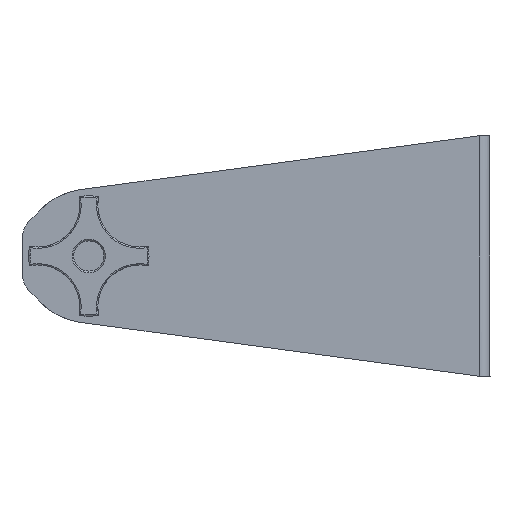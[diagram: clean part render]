
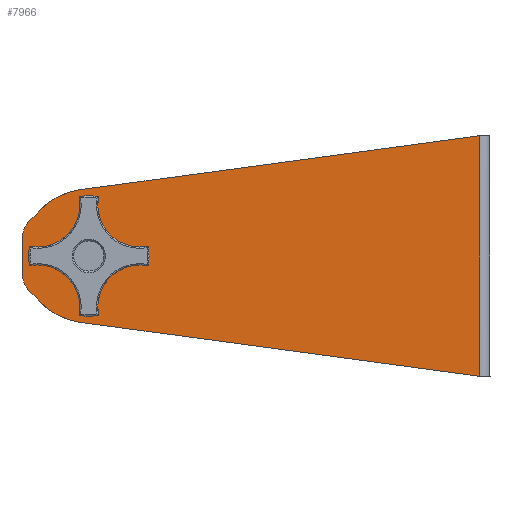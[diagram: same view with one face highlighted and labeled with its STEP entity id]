
A CAD part, left-side view. The second image highlights one B-rep face of the part: STEP entity #7966.
In plain terms, the highlighted planar face has unit normal (-1, 0, 0).
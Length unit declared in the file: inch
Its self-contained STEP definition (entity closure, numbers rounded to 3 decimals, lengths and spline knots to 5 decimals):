
#105 = CARTESIAN_POINT ( 'NONE',  ( -12., 7.5, 0. ) ) ;
#266 = ORIENTED_EDGE ( 'NONE', *, *, #3225, .T. ) ;
#328 = EDGE_CURVE ( 'NONE', #4331, #2319, #2053, .T. ) ;
#677 = CARTESIAN_POINT ( 'NONE',  ( -12., 7.5, 0. ) ) ;
#795 = DIRECTION ( 'NONE',  ( 0., -1., 0. ) ) ;
#947 = DIRECTION ( 'NONE',  ( 0., -1., 0. ) ) ;
#1313 = FACE_OUTER_BOUND ( 'NONE', #1505, .T. ) ;
#1505 = EDGE_LOOP ( 'NONE', ( #10176, #266, #9492, #7971, #7106, #9514, #6292, #7753, #9885, #3402 ) ) ;
#1537 = DIRECTION ( 'NONE',  ( 0., -1., 0. ) ) ;
#1566 = CARTESIAN_POINT ( 'NONE',  ( -12., 7.66748, 1.23873 ) ) ;
#1710 = CARTESIAN_POINT ( 'NONE',  ( -12., 7.5, 0. ) ) ;
#1825 = AXIS2_PLACEMENT_3D ( 'NONE', #1710, #7657, #2567 ) ;
#1888 = AXIS2_PLACEMENT_3D ( 'NONE', #10995, #5913, #795 ) ;
#1944 = AXIS2_PLACEMENT_3D ( 'NONE', #3943, #4012, #3971 ) ;
#2053 = CIRCLE ( 'NONE', #1944, 0.5 ) ;
#2263 = CIRCLE ( 'NONE', #9481, 0.5 ) ;
#2310 = VERTEX_POINT ( 'NONE', #1566 ) ;
#2319 = VERTEX_POINT ( 'NONE', #10609 ) ;
#2511 = EDGE_CURVE ( 'NONE', #6469, #2310, #5271, .T. ) ;
#2535 = LINE ( 'NONE', #9666, #5976 ) ;
#2567 = DIRECTION ( 'NONE',  ( 0., -1., 0. ) ) ;
#2835 = VERTEX_POINT ( 'NONE', #8003 ) ;
#3156 = CIRCLE ( 'NONE', #4452, 0.1955 ) ;
#3181 = CIRCLE ( 'NONE', #8165, 1.25 ) ;
#3225 = EDGE_CURVE ( 'NONE', #3982, #9235, #7261, .T. ) ;
#3402 = ORIENTED_EDGE ( 'NONE', *, *, #5415, .F. ) ;
#3494 = EDGE_CURVE ( 'NONE', #8065, #2835, #8567, .T. ) ;
#3510 = EDGE_CURVE ( 'NONE', #2310, #9235, #7727, .T. ) ;
#3661 = VERTEX_POINT ( 'NONE', #5132 ) ;
#3730 = PLANE ( 'NONE',  #7076 ) ;
#3907 = DIRECTION ( 'NONE',  ( 0., 0., 1. ) ) ;
#3943 = CARTESIAN_POINT ( 'NONE',  ( -12., 8.25, -0.31 ) ) ;
#3971 = DIRECTION ( 'NONE',  ( 0., -1., 0. ) ) ;
#3980 = CARTESIAN_POINT ( 'NONE',  ( -12., 8.38521, 0.88255 ) ) ;
#3982 = VERTEX_POINT ( 'NONE', #10714 ) ;
#4012 = DIRECTION ( 'NONE',  ( 1., 0., 0. ) ) ;
#4331 = VERTEX_POINT ( 'NONE', #7876 ) ;
#4452 = AXIS2_PLACEMENT_3D ( 'NONE', #105, #6066, #947 ) ;
#4514 = CARTESIAN_POINT ( 'NONE',  ( -12., 8.25, 0.31 ) ) ;
#4576 = DIRECTION ( 'NONE',  ( -1., 0., 0. ) ) ;
#4730 = CARTESIAN_POINT ( 'NONE',  ( -12., 0.188, 2.25 ) ) ;
#4782 = EDGE_CURVE ( 'NONE', #2319, #3661, #2535, .T. ) ;
#5130 = VERTEX_POINT ( 'NONE', #6158 ) ;
#5132 = CARTESIAN_POINT ( 'NONE',  ( -12., 8.75, 0.31 ) ) ;
#5271 = CIRCLE ( 'NONE', #1888, 1.25 ) ;
#5361 = DIRECTION ( 'NONE',  ( 0., -1., 0. ) ) ;
#5406 = ORIENTED_EDGE ( 'NONE', *, *, #3494, .T. ) ;
#5415 = EDGE_CURVE ( 'NONE', #5130, #9587, #3181, .T. ) ;
#5459 = VECTOR ( 'NONE', #5584, 39.37008 ) ;
#5517 = VERTEX_POINT ( 'NONE', #9223 ) ;
#5584 = DIRECTION ( 'NONE',  ( 0., -0.991, 0.134 ) ) ;
#5716 = LINE ( 'NONE', #9077, #7961 ) ;
#5862 = FACE_BOUND ( 'NONE', #8602, .T. ) ;
#5913 = DIRECTION ( 'NONE',  ( 1., 0., 0. ) ) ;
#5931 = LINE ( 'NONE', #9565, #9611 ) ;
#5976 = VECTOR ( 'NONE', #8827, 39.37008 ) ;
#6066 = DIRECTION ( 'NONE',  ( 1., 0., 0. ) ) ;
#6158 = CARTESIAN_POINT ( 'NONE',  ( -12., 7.66748, -1.23873 ) ) ;
#6292 = ORIENTED_EDGE ( 'NONE', *, *, #4782, .F. ) ;
#6437 = CARTESIAN_POINT ( 'NONE',  ( -12., 0.196, 0. ) ) ;
#6453 = CARTESIAN_POINT ( 'NONE',  ( -12., 8.60408, -0.66302 ) ) ;
#6469 = VERTEX_POINT ( 'NONE', #3980 ) ;
#6650 = DIRECTION ( 'NONE',  ( 1., 0., 0. ) ) ;
#7076 = AXIS2_PLACEMENT_3D ( 'NONE', #9603, #4576, #10494 ) ;
#7106 = ORIENTED_EDGE ( 'NONE', *, *, #10812, .F. ) ;
#7261 = LINE ( 'NONE', #6437, #9234 ) ;
#7657 = DIRECTION ( 'NONE',  ( 1., 0., 0. ) ) ;
#7727 = LINE ( 'NONE', #4730, #5459 ) ;
#7753 = ORIENTED_EDGE ( 'NONE', *, *, #328, .F. ) ;
#7856 = CARTESIAN_POINT ( 'NONE',  ( -12., 8.38521, -0.88255 ) ) ;
#7876 = CARTESIAN_POINT ( 'NONE',  ( -12., 8.60408, -0.66302 ) ) ;
#7961 = VECTOR ( 'NONE', #10782, 39.37008 ) ;
#7966 = ADVANCED_FACE ( 'NONE', ( #5862, #1313 ), #3730, .T. ) ;
#7971 = ORIENTED_EDGE ( 'NONE', *, *, #2511, .F. ) ;
#8003 = CARTESIAN_POINT ( 'NONE',  ( -12., 7.3045, 0. ) ) ;
#8065 = VERTEX_POINT ( 'NONE', #10435 ) ;
#8165 = AXIS2_PLACEMENT_3D ( 'NONE', #677, #6650, #1537 ) ;
#8237 = VECTOR ( 'NONE', #8775, 39.37008 ) ;
#8329 = EDGE_CURVE ( 'NONE', #3982, #5130, #5716, .T. ) ;
#8567 = CIRCLE ( 'NONE', #1825, 0.1955 ) ;
#8602 = EDGE_LOOP ( 'NONE', ( #5406, #9488 ) ) ;
#8604 = EDGE_CURVE ( 'NONE', #3661, #5517, #2263, .T. ) ;
#8680 = EDGE_CURVE ( 'NONE', #9587, #4331, #10741, .T. ) ;
#8775 = DIRECTION ( 'NONE',  ( 0., 0.706, 0.708 ) ) ;
#8827 = DIRECTION ( 'NONE',  ( 0., 0., 1. ) ) ;
#8908 = CARTESIAN_POINT ( 'NONE',  ( -12., 0.196, 2.24892 ) ) ;
#9077 = CARTESIAN_POINT ( 'NONE',  ( -12., 0.188, -2.25 ) ) ;
#9223 = CARTESIAN_POINT ( 'NONE',  ( -12., 8.60408, 0.66302 ) ) ;
#9234 = VECTOR ( 'NONE', #3907, 39.37008 ) ;
#9235 = VERTEX_POINT ( 'NONE', #8908 ) ;
#9481 = AXIS2_PLACEMENT_3D ( 'NONE', #4514, #10421, #5361 ) ;
#9488 = ORIENTED_EDGE ( 'NONE', *, *, #10153, .T. ) ;
#9492 = ORIENTED_EDGE ( 'NONE', *, *, #3510, .F. ) ;
#9514 = ORIENTED_EDGE ( 'NONE', *, *, #8604, .F. ) ;
#9565 = CARTESIAN_POINT ( 'NONE',  ( -12., 8.60408, 0.66302 ) ) ;
#9587 = VERTEX_POINT ( 'NONE', #7856 ) ;
#9603 = CARTESIAN_POINT ( 'NONE',  ( -12., 7.5, 0. ) ) ;
#9611 = VECTOR ( 'NONE', #10412, 39.37008 ) ;
#9666 = CARTESIAN_POINT ( 'NONE',  ( -12., 8.75, 0.31 ) ) ;
#9885 = ORIENTED_EDGE ( 'NONE', *, *, #8680, .F. ) ;
#10153 = EDGE_CURVE ( 'NONE', #2835, #8065, #3156, .T. ) ;
#10176 = ORIENTED_EDGE ( 'NONE', *, *, #8329, .F. ) ;
#10412 = DIRECTION ( 'NONE',  ( 0., -0.706, 0.708 ) ) ;
#10421 = DIRECTION ( 'NONE',  ( 1., 0., 0. ) ) ;
#10435 = CARTESIAN_POINT ( 'NONE',  ( -12., 7.6955, 0. ) ) ;
#10494 = DIRECTION ( 'NONE',  ( 0., 1., 0. ) ) ;
#10609 = CARTESIAN_POINT ( 'NONE',  ( -12., 8.75, -0.31 ) ) ;
#10714 = CARTESIAN_POINT ( 'NONE',  ( -12., 0.196, -2.24892 ) ) ;
#10741 = LINE ( 'NONE', #6453, #8237 ) ;
#10782 = DIRECTION ( 'NONE',  ( 0., 0.991, 0.134 ) ) ;
#10812 = EDGE_CURVE ( 'NONE', #5517, #6469, #5931, .T. ) ;
#10995 = CARTESIAN_POINT ( 'NONE',  ( -12., 7.5, 0. ) ) ;
